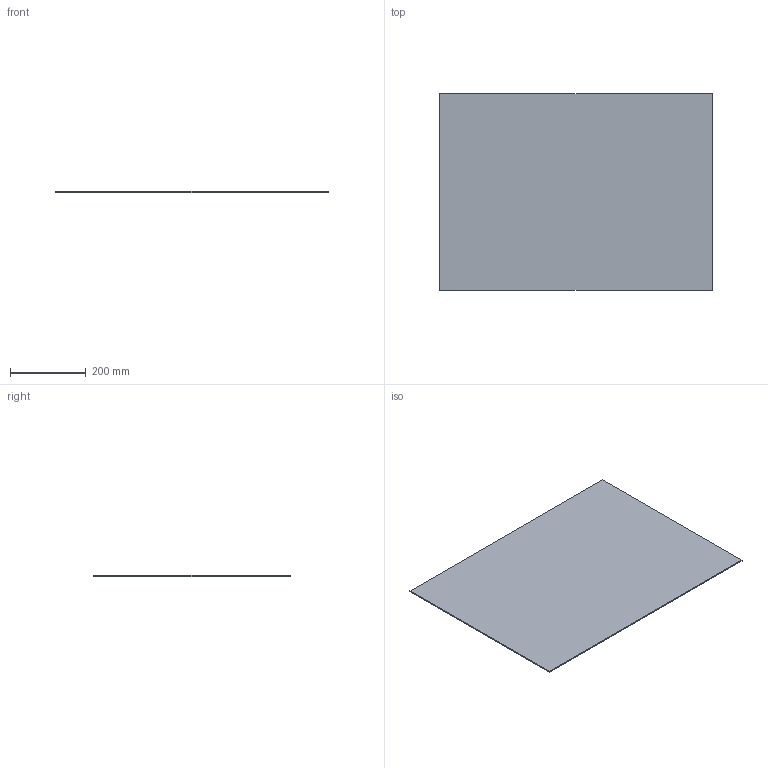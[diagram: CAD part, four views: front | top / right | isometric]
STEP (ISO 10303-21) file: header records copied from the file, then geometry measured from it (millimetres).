
FILE_DESCRIPTION(('Open CASCADE Model'),'2;1');
FILE_NAME('Open CASCADE Shape Model','2026-10-19T10:09:27',('Author'),( 'Open CASCADE'),'Open CASCADE STEP processor 8.0','Open CASCADE 8.0' ,'Unknown');
FILE_SCHEMA(('AUTOMOTIVE_DESIGN { 1 0 10303 214 1 1 1 1 }'));
Length unit declared in the file: millimetre
Products named in the file (1): AC_PUERTA_PANEL_720x520x3 184
Bounding box: 720 x 520 x 3 mm (x, y, z)
Volume: 1123200 mm3; surface area: 756240 mm2
Topology: 1 solids, 1 shells, 6 faces, 12 edges, 8 vertices
Faces by surface type: plane 6
Entity records: 322 total; most frequent: CARTESIAN_POINT 51, DIRECTION 50, LINE 36, VECTOR 36, ORIENTED_EDGE 24, PCURVE 24, DEFINITIONAL_REPRESENTATION 24, EDGE_CURVE 12
